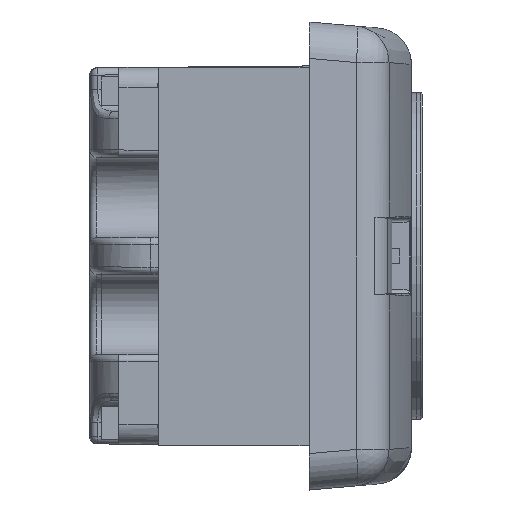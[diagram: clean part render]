
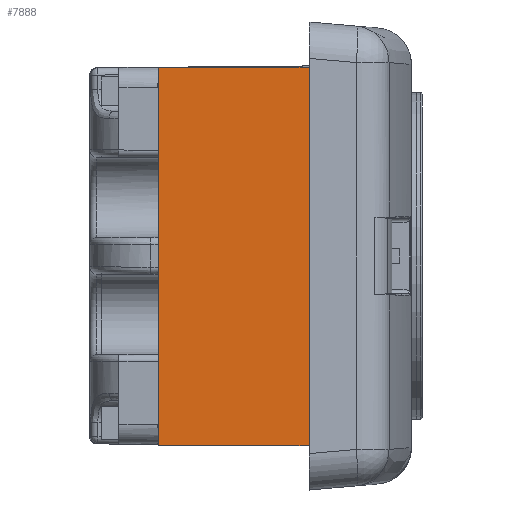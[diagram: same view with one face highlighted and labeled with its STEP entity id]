
A CAD part, left-side view. The second image highlights one B-rep face of the part: STEP entity #7888.
In plain terms, the highlighted planar face has unit normal (-1, 0, 0).
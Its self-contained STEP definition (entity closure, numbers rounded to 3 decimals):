
#7341=CARTESIAN_POINT('',(-96.504,26.3,-25.951));
#7342=VERTEX_POINT('',#7341);
#7349=CARTESIAN_POINT('',(-96.504,26.3,25.796));
#7350=VERTEX_POINT('',#7349);
#7351=CARTESIAN_POINT('',(-96.504,26.3,25.796));
#7352=DIRECTION('',(0.0,0.0,-1.0));
#7353=VECTOR('',#7352,51.747);
#7354=LINE('',#7351,#7353);
#7355=EDGE_CURVE('',#7350,#7342,#7354,.T.);
#7441=CARTESIAN_POINT('',(-96.504,2.4,25.796));
#7442=VERTEX_POINT('',#7441);
#7443=CARTESIAN_POINT('',(-96.504,26.3,25.796));
#7444=DIRECTION('',(0.0,-1.0,0.0));
#7445=VECTOR('',#7444,23.9);
#7446=LINE('',#7443,#7445);
#7447=EDGE_CURVE('',#7350,#7442,#7446,.T.);
#7679=CARTESIAN_POINT('',(-96.504,26.3,-25.951));
#7680=DIRECTION('',(-1.0,0.0,0.0));
#7681=DIRECTION('',(0.0,0.0,1.0));
#7682=AXIS2_PLACEMENT_3D('',#7679,#7680,#7681);
#7683=PLANE('',#7682);
#7684=CARTESIAN_POINT('',(-96.504,2.4,18.173));
#7685=VERTEX_POINT('',#7684);
#7686=CARTESIAN_POINT('',(-96.504,2.819,16.846));
#7687=VERTEX_POINT('',#7686);
#7688=CARTESIAN_POINT('',(-96.504,2.4,18.173));
#7689=CARTESIAN_POINT('',(-96.504,2.701,17.481));
#7690=CARTESIAN_POINT('',(-96.504,2.819,16.846));
#7698=(BOUNDED_CURVE()B_SPLINE_CURVE(2,(#7688,#7689,#7690),.UNSPECIFIED.,.F.,.U.)B_SPLINE_CURVE_WITH_KNOTS((3,3),(0.0,0.132),.UNSPECIFIED.)CURVE()GEOMETRIC_REPRESENTATION_ITEM()RATIONAL_B_SPLINE_CURVE((1.0,1.033,1.046))REPRESENTATION_ITEM(''));
#7699=EDGE_CURVE('',#7685,#7687,#7698,.T.);
#7700=ORIENTED_EDGE('',*,*,#7699,.F.);
#7701=CARTESIAN_POINT('',(-96.504,2.4,25.796));
#7702=DIRECTION('',(0.0,0.0,-1.0));
#7703=VECTOR('',#7702,7.623);
#7704=LINE('',#7701,#7703);
#7705=EDGE_CURVE('',#7442,#7685,#7704,.T.);
#7706=ORIENTED_EDGE('',*,*,#7705,.F.);
#7707=ORIENTED_EDGE('',*,*,#7447,.F.);
#7708=ORIENTED_EDGE('',*,*,#7355,.T.);
#7709=CARTESIAN_POINT('',(-96.504,2.4,-25.951));
#7710=VERTEX_POINT('',#7709);
#7711=CARTESIAN_POINT('',(-96.504,26.3,-25.951));
#7712=DIRECTION('',(0.0,-1.0,0.0));
#7713=VECTOR('',#7712,23.9);
#7714=LINE('',#7711,#7713);
#7715=EDGE_CURVE('',#7342,#7710,#7714,.T.);
#7716=ORIENTED_EDGE('',*,*,#7715,.T.);
#7717=CARTESIAN_POINT('',(-96.504,2.4,-18.173));
#7718=VERTEX_POINT('',#7717);
#7719=CARTESIAN_POINT('',(-96.504,2.4,-18.173));
#7720=DIRECTION('',(0.0,0.0,-1.0));
#7721=VECTOR('',#7720,7.778);
#7722=LINE('',#7719,#7721);
#7723=EDGE_CURVE('',#7718,#7710,#7722,.T.);
#7724=ORIENTED_EDGE('',*,*,#7723,.F.);
#7725=CARTESIAN_POINT('',(-96.504,2.819,-16.846));
#7726=VERTEX_POINT('',#7725);
#7727=CARTESIAN_POINT('',(-96.504,2.819,-16.846));
#7728=CARTESIAN_POINT('',(-96.504,2.701,-17.481));
#7729=CARTESIAN_POINT('',(-96.504,2.4,-18.173));
#7737=(BOUNDED_CURVE()B_SPLINE_CURVE(2,(#7727,#7728,#7729),.UNSPECIFIED.,.F.,.U.)B_SPLINE_CURVE_WITH_KNOTS((3,3),(0.314,0.446),.UNSPECIFIED.)CURVE()GEOMETRIC_REPRESENTATION_ITEM()RATIONAL_B_SPLINE_CURVE((1.046,1.033,1.0))REPRESENTATION_ITEM(''));
#7738=EDGE_CURVE('',#7726,#7718,#7737,.T.);
#7739=ORIENTED_EDGE('',*,*,#7738,.F.);
#7740=CARTESIAN_POINT('',(-96.504,5.7,-16.821));
#7741=VERTEX_POINT('',#7740);
#7742=CARTESIAN_POINT('',(-96.504,5.7,-16.821));
#7743=DIRECTION('',(0.0,-1.,-0.009));
#7744=VECTOR('',#7743,2.881);
#7745=LINE('',#7742,#7744);
#7746=EDGE_CURVE('',#7741,#7726,#7745,.T.);
#7747=ORIENTED_EDGE('',*,*,#7746,.F.);
#7748=CARTESIAN_POINT('',(-96.504,5.7,-15.179));
#7749=VERTEX_POINT('',#7748);
#7750=CARTESIAN_POINT('',(-96.504,5.7,-15.179));
#7751=DIRECTION('',(0.0,0.0,-1.0));
#7752=VECTOR('',#7751,1.642);
#7753=LINE('',#7750,#7752);
#7754=EDGE_CURVE('',#7749,#7741,#7753,.T.);
#7755=ORIENTED_EDGE('',*,*,#7754,.F.);
#7756=CARTESIAN_POINT('',(-96.504,2.819,-15.154));
#7757=VERTEX_POINT('',#7756);
#7758=CARTESIAN_POINT('',(-96.504,2.819,-15.154));
#7759=DIRECTION('',(0.0,1.,-0.009));
#7760=VECTOR('',#7759,2.881);
#7761=LINE('',#7758,#7760);
#7762=EDGE_CURVE('',#7757,#7749,#7761,.T.);
#7763=ORIENTED_EDGE('',*,*,#7762,.F.);
#7764=CARTESIAN_POINT('',(-96.504,2.4,-13.827));
#7765=VERTEX_POINT('',#7764);
#7766=CARTESIAN_POINT('',(-96.504,2.4,-13.827));
#7767=CARTESIAN_POINT('',(-96.504,2.701,-14.519));
#7768=CARTESIAN_POINT('',(-96.504,2.819,-15.154));
#7776=(BOUNDED_CURVE()B_SPLINE_CURVE(2,(#7766,#7767,#7768),.UNSPECIFIED.,.F.,.U.)B_SPLINE_CURVE_WITH_KNOTS((3,3),(0.0,0.132),.UNSPECIFIED.)CURVE()GEOMETRIC_REPRESENTATION_ITEM()RATIONAL_B_SPLINE_CURVE((1.0,1.033,1.046))REPRESENTATION_ITEM(''));
#7777=EDGE_CURVE('',#7765,#7757,#7776,.T.);
#7778=ORIENTED_EDGE('',*,*,#7777,.F.);
#7779=CARTESIAN_POINT('',(-96.504,2.4,-2.173));
#7780=VERTEX_POINT('',#7779);
#7781=CARTESIAN_POINT('',(-96.504,2.4,-2.173));
#7782=DIRECTION('',(0.0,0.0,-1.0));
#7783=VECTOR('',#7782,11.654);
#7784=LINE('',#7781,#7783);
#7785=EDGE_CURVE('',#7780,#7765,#7784,.T.);
#7786=ORIENTED_EDGE('',*,*,#7785,.F.);
#7787=CARTESIAN_POINT('',(-96.504,2.819,-0.846));
#7788=VERTEX_POINT('',#7787);
#7789=CARTESIAN_POINT('',(-96.504,2.819,-0.846));
#7790=CARTESIAN_POINT('',(-96.504,2.701,-1.481));
#7791=CARTESIAN_POINT('',(-96.504,2.4,-2.173));
#7799=(BOUNDED_CURVE()B_SPLINE_CURVE(2,(#7789,#7790,#7791),.UNSPECIFIED.,.F.,.U.)B_SPLINE_CURVE_WITH_KNOTS((3,3),(0.314,0.446),.UNSPECIFIED.)CURVE()GEOMETRIC_REPRESENTATION_ITEM()RATIONAL_B_SPLINE_CURVE((1.046,1.033,1.0))REPRESENTATION_ITEM(''));
#7800=EDGE_CURVE('',#7788,#7780,#7799,.T.);
#7801=ORIENTED_EDGE('',*,*,#7800,.F.);
#7802=CARTESIAN_POINT('',(-96.504,5.7,-0.821));
#7803=VERTEX_POINT('',#7802);
#7804=CARTESIAN_POINT('',(-96.504,5.7,-0.821));
#7805=DIRECTION('',(0.0,-1.,-0.009));
#7806=VECTOR('',#7805,2.881);
#7807=LINE('',#7804,#7806);
#7808=EDGE_CURVE('',#7803,#7788,#7807,.T.);
#7809=ORIENTED_EDGE('',*,*,#7808,.F.);
#7810=CARTESIAN_POINT('',(-96.504,5.7,0.821));
#7811=VERTEX_POINT('',#7810);
#7812=CARTESIAN_POINT('',(-96.504,5.7,0.821));
#7813=DIRECTION('',(0.0,0.0,-1.0));
#7814=VECTOR('',#7813,1.642);
#7815=LINE('',#7812,#7814);
#7816=EDGE_CURVE('',#7811,#7803,#7815,.T.);
#7817=ORIENTED_EDGE('',*,*,#7816,.F.);
#7818=CARTESIAN_POINT('',(-96.504,2.819,0.846));
#7819=VERTEX_POINT('',#7818);
#7820=CARTESIAN_POINT('',(-96.504,2.819,0.846));
#7821=DIRECTION('',(0.0,1.,-0.009));
#7822=VECTOR('',#7821,2.881);
#7823=LINE('',#7820,#7822);
#7824=EDGE_CURVE('',#7819,#7811,#7823,.T.);
#7825=ORIENTED_EDGE('',*,*,#7824,.F.);
#7826=CARTESIAN_POINT('',(-96.504,2.4,2.173));
#7827=VERTEX_POINT('',#7826);
#7828=CARTESIAN_POINT('',(-96.504,2.4,2.173));
#7829=CARTESIAN_POINT('',(-96.504,2.701,1.481));
#7830=CARTESIAN_POINT('',(-96.504,2.819,0.846));
#7838=(BOUNDED_CURVE()B_SPLINE_CURVE(2,(#7828,#7829,#7830),.UNSPECIFIED.,.F.,.U.)B_SPLINE_CURVE_WITH_KNOTS((3,3),(0.0,0.132),.UNSPECIFIED.)CURVE()GEOMETRIC_REPRESENTATION_ITEM()RATIONAL_B_SPLINE_CURVE((1.0,1.033,1.046))REPRESENTATION_ITEM(''));
#7839=EDGE_CURVE('',#7827,#7819,#7838,.T.);
#7840=ORIENTED_EDGE('',*,*,#7839,.F.);
#7841=CARTESIAN_POINT('',(-96.504,2.4,13.827));
#7842=VERTEX_POINT('',#7841);
#7843=CARTESIAN_POINT('',(-96.504,2.4,13.827));
#7844=DIRECTION('',(0.0,0.0,-1.0));
#7845=VECTOR('',#7844,11.654);
#7846=LINE('',#7843,#7845);
#7847=EDGE_CURVE('',#7842,#7827,#7846,.T.);
#7848=ORIENTED_EDGE('',*,*,#7847,.F.);
#7849=CARTESIAN_POINT('',(-96.504,2.819,15.154));
#7850=VERTEX_POINT('',#7849);
#7851=CARTESIAN_POINT('',(-96.504,2.819,15.154));
#7852=CARTESIAN_POINT('',(-96.504,2.701,14.519));
#7853=CARTESIAN_POINT('',(-96.504,2.4,13.827));
#7861=(BOUNDED_CURVE()B_SPLINE_CURVE(2,(#7851,#7852,#7853),.UNSPECIFIED.,.F.,.U.)B_SPLINE_CURVE_WITH_KNOTS((3,3),(0.314,0.446),.UNSPECIFIED.)CURVE()GEOMETRIC_REPRESENTATION_ITEM()RATIONAL_B_SPLINE_CURVE((1.046,1.033,1.0))REPRESENTATION_ITEM(''));
#7862=EDGE_CURVE('',#7850,#7842,#7861,.T.);
#7863=ORIENTED_EDGE('',*,*,#7862,.F.);
#7864=CARTESIAN_POINT('',(-96.504,5.7,15.179));
#7865=VERTEX_POINT('',#7864);
#7866=CARTESIAN_POINT('',(-96.504,5.7,15.179));
#7867=DIRECTION('',(0.0,-1.,-0.009));
#7868=VECTOR('',#7867,2.881);
#7869=LINE('',#7866,#7868);
#7870=EDGE_CURVE('',#7865,#7850,#7869,.T.);
#7871=ORIENTED_EDGE('',*,*,#7870,.F.);
#7872=CARTESIAN_POINT('',(-96.504,5.7,16.821));
#7873=VERTEX_POINT('',#7872);
#7874=CARTESIAN_POINT('',(-96.504,5.7,16.821));
#7875=DIRECTION('',(0.0,0.0,-1.0));
#7876=VECTOR('',#7875,1.642);
#7877=LINE('',#7874,#7876);
#7878=EDGE_CURVE('',#7873,#7865,#7877,.T.);
#7879=ORIENTED_EDGE('',*,*,#7878,.F.);
#7880=CARTESIAN_POINT('',(-96.504,2.819,16.846));
#7881=DIRECTION('',(0.0,1.,-0.009));
#7882=VECTOR('',#7881,2.881);
#7883=LINE('',#7880,#7882);
#7884=EDGE_CURVE('',#7687,#7873,#7883,.T.);
#7885=ORIENTED_EDGE('',*,*,#7884,.F.);
#7886=EDGE_LOOP('',(#7700,#7706,#7707,#7708,#7716,#7724,#7739,#7747,#7755,#7763,#7778,#7786,#7801,#7809,#7817,#7825,#7840,#7848,#7863,#7871,#7879,#7885));
#7887=FACE_OUTER_BOUND('',#7886,.T.);
#7888=ADVANCED_FACE('',(#7887),#7683,.T.);
